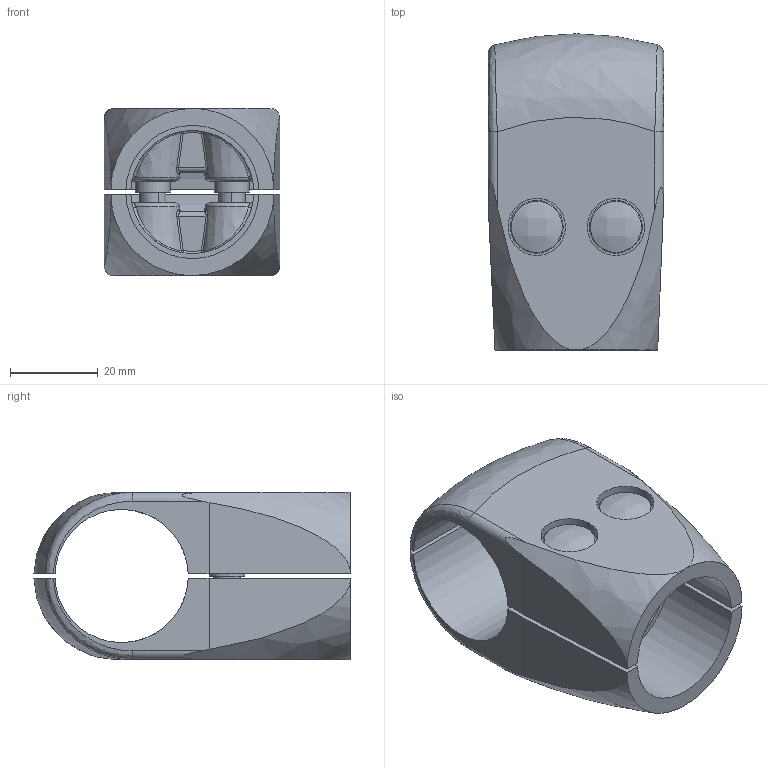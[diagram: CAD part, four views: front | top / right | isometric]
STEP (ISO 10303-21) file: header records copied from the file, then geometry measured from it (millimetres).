
FILE_DESCRIPTION (( 'STEP AP214' ), '1' );
FILE_NAME ('31000410002.STEP', '2024-09-02T09:46:40', ( '' ), ( '' ), 'SwSTEP 2.0', 'SolidWorks 2016', '' );
FILE_SCHEMA (( 'AUTOMOTIVE_DESIGN' ));
Length unit declared in the file: millimetre
Products named in the file (5): 2310_Schale_1; DIN 6912  (Regelgewinde) M6 x 25; 635179_H_S__lsenmutter; 31000410002; 2310_Schale_2
Assembly tree (6 placements, depth 2):
  31000410002
    2310_Schale_1
    2310_Schale_2
    DIN 6912  (Regelgewinde) M6 x 25  x2
    635179_H_S__lsenmutter  x2
Bounding box: 39.85 x 71.95 x 38 mm (x, y, z)
Volume: 44844.8 mm3; surface area: 22967 mm2
Topology: 6 solids, 6 shells, 214 faces, 507 edges, 301 vertices
Faces by surface type: cylinder 58, plane 58, bspline 54, cone 26, torus 10, sphere 8
Entity records: 12983 total; most frequent: CARTESIAN_POINT 7180, ORIENTED_EDGE 826, DIRECTION 644, EDGE_CURVE 413, AXIS2_PLACEMENT_3D 261, VERTEX_POINT 251, EDGE_LOOP 194, UNCERTAINTY_MEASURE_WITH_UNIT 191
